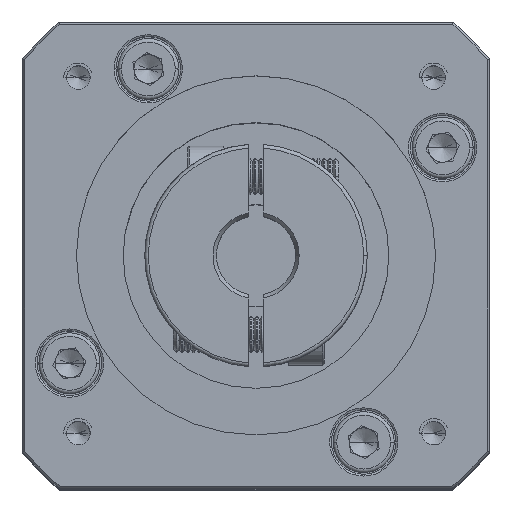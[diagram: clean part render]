
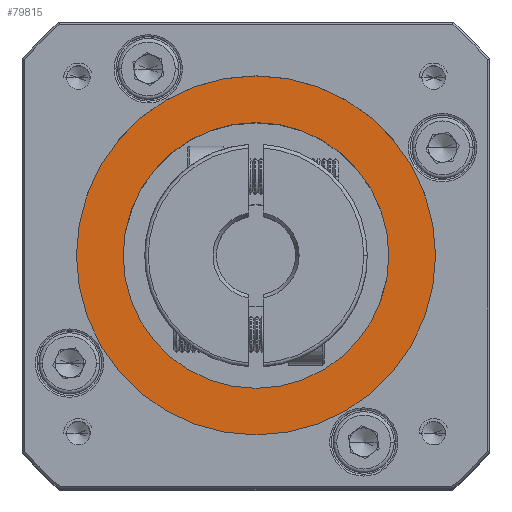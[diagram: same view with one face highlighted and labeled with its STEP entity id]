
A CAD part, top view. The second image highlights one B-rep face of the part: STEP entity #79815.
In plain terms, the highlighted planar face has unit normal (0, 0, 1).
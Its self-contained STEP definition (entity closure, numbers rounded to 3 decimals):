
#813 = DIRECTION ( 'NONE',  ( 0., 0., 1. ) ) ;
#4827 = VERTEX_POINT ( 'NONE', #63629 ) ;
#5120 = ORIENTED_EDGE ( 'NONE', *, *, #11578, .T. ) ;
#6319 = CARTESIAN_POINT ( 'NONE',  ( 0.338, 15.183, 148.65 ) ) ;
#8050 = ORIENTED_EDGE ( 'NONE', *, *, #12047, .T. ) ;
#9036 = DIRECTION ( 'NONE',  ( 0., 0., 1. ) ) ;
#9746 = CARTESIAN_POINT ( 'NONE',  ( 25.338, 15.183, 148.65 ) ) ;
#11578 = EDGE_CURVE ( 'NONE', #75476, #4827, #12775, .T. ) ;
#12047 = EDGE_CURVE ( 'NONE', #93265, #101884, #59016, .T. ) ;
#12775 = CIRCLE ( 'NONE', #87964, 18.5 ) ;
#14078 = ORIENTED_EDGE ( 'NONE', *, *, #83703, .T. ) ;
#17451 = CARTESIAN_POINT ( 'NONE',  ( 25.338, 15.183, 148.65 ) ) ;
#17705 = PLANE ( 'NONE',  #104883 ) ;
#18054 = DIRECTION ( 'NONE',  ( 1., 0., 0. ) ) ;
#19361 = EDGE_LOOP ( 'NONE', ( #22184, #8050 ) ) ;
#22184 = ORIENTED_EDGE ( 'NONE', *, *, #55737, .T. ) ;
#25711 = DIRECTION ( 'NONE',  ( 1., 0., 0. ) ) ;
#35497 = CARTESIAN_POINT ( 'NONE',  ( 25.338, 15.183, 148.65 ) ) ;
#36453 = EDGE_LOOP ( 'NONE', ( #14078, #5120 ) ) ;
#38570 = CARTESIAN_POINT ( 'NONE',  ( 6.838, 15.183, 148.65 ) ) ;
#43749 = DIRECTION ( 'NONE',  ( 1., 0., 0. ) ) ;
#50121 = CARTESIAN_POINT ( 'NONE',  ( 25.338, 15.183, 148.65 ) ) ;
#55737 = EDGE_CURVE ( 'NONE', #101884, #93265, #58016, .T. ) ;
#58016 = CIRCLE ( 'NONE', #69569, 25. ) ;
#58362 = CARTESIAN_POINT ( 'NONE',  ( 25.338, 15.183, 148.65 ) ) ;
#58406 = DIRECTION ( 'NONE',  ( 1., 0., 0. ) ) ;
#59016 = CIRCLE ( 'NONE', #70984, 25. ) ;
#63423 = FACE_BOUND ( 'NONE', #36453, .T. ) ;
#63629 = CARTESIAN_POINT ( 'NONE',  ( 43.838, 15.183, 148.65 ) ) ;
#66641 = DIRECTION ( 'NONE',  ( 1., 0., 0. ) ) ;
#67354 = DIRECTION ( 'NONE',  ( 0., 0., 1. ) ) ;
#69569 = AXIS2_PLACEMENT_3D ( 'NONE', #58362, #9036, #66641 ) ;
#70984 = AXIS2_PLACEMENT_3D ( 'NONE', #50121, #813, #58406 ) ;
#74973 = DIRECTION ( 'NONE',  ( 0., 0., -1. ) ) ;
#75476 = VERTEX_POINT ( 'NONE', #38570 ) ;
#79815 = ADVANCED_FACE ( 'NONE', ( #90265, #63423 ), #17705, .T. ) ;
#83703 = EDGE_CURVE ( 'NONE', #4827, #75476, #84033, .T. ) ;
#84033 = CIRCLE ( 'NONE', #94942, 18.5 ) ;
#87240 = CARTESIAN_POINT ( 'NONE',  ( 50.338, 15.183, 148.65 ) ) ;
#87964 = AXIS2_PLACEMENT_3D ( 'NONE', #35497, #92865, #43749 ) ;
#90265 = FACE_OUTER_BOUND ( 'NONE', #19361, .T. ) ;
#92865 = DIRECTION ( 'NONE',  ( 0., 0., -1. ) ) ;
#93265 = VERTEX_POINT ( 'NONE', #6319 ) ;
#94942 = AXIS2_PLACEMENT_3D ( 'NONE', #17451, #74973, #25711 ) ;
#101884 = VERTEX_POINT ( 'NONE', #87240 ) ;
#104883 = AXIS2_PLACEMENT_3D ( 'NONE', #9746, #67354, #18054 ) ;
